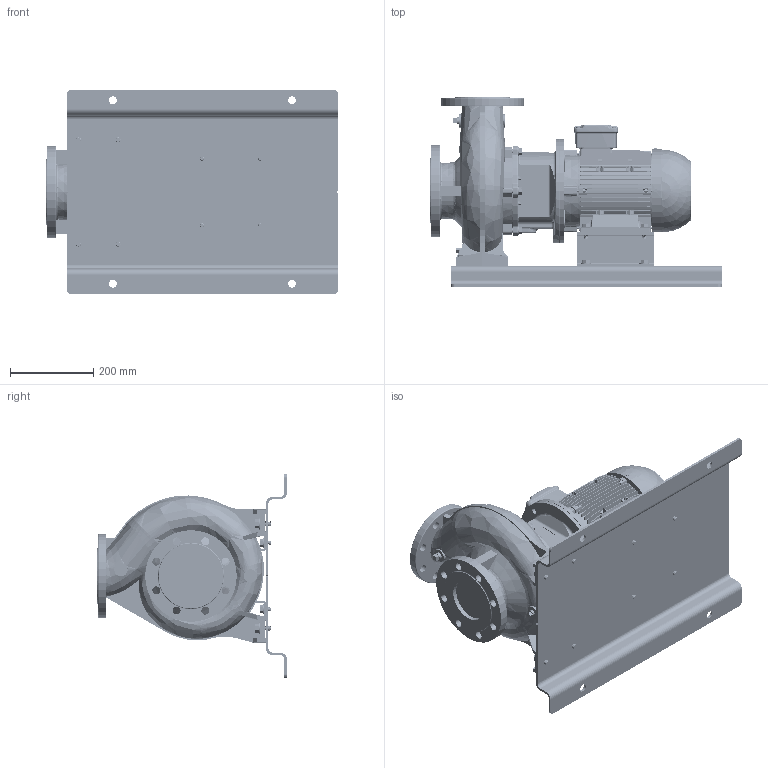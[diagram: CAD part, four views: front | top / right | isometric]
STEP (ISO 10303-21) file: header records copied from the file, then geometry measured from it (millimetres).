
FILE_DESCRIPTION (( 'STEP AP214' ), '1' );
FILE_NAME ('GSD4 80-160_2.2 & 3.0_(100L)_W21_BP.STEP', '2026-05-08T06:53:24', ( '' ), ( '' ), 'SwSTEP 2.0', 'SolidWorks 2024', '' );
FILE_SCHEMA (( 'AUTOMOTIVE_DESIGN' ));
Length unit declared in the file: inch
Products named in the file (11): Parametric bolt_SFT-A249B.STEP; 80-160-100L_______.STEP; GSD4 80-160_2.2 & 3.0_(100L)_W21_BP; Parametric bolt_SFT-A253B.STEP; GSD4 80-160_2.2 & 3.0_(100L)_W21_BP.STEP; 100L ALIE3_W21T_B35.STEP; Parametric Flat Washer_M12.STEP; N5S5 GSDA-552 F1-1832915-00.STEP; Parametric Flat Washer_M10.STEP; Parametric bolt_SFT-A299B.STEP; 140 x 80 - 271472220.STEP
Assembly tree (30 placements, depth 3):
  GSD4 80-160_2.2 & 3.0_(100L)_W21_BP
    GSD4 80-160_2.2 & 3.0_(100L)_W21_BP.STEP
      80-160-100L_______.STEP
      100L ALIE3_W21T_B35.STEP
      N5S5 GSDA-552 F1-1832915-00.STEP
      140 x 80 - 271472220.STEP  x2
      Parametric bolt_SFT-A299B.STEP  x4
      Parametric bolt_SFT-A253B.STEP  x4
      Parametric bolt_SFT-A249B.STEP  x4
      Parametric Flat Washer_M12.STEP  x4
      Parametric Flat Washer_M10.STEP  x8
Bounding box: 700 x 455 x 490 mm (x, y, z)
Volume: 23547686.1 mm3; surface area: 2306750.6 mm2
Topology: 32 solids, 32 shells, 4251 faces, 11104 edges, 7139 vertices
Faces by surface type: plane 2336, cylinder 1145, torus 317, bspline 250, cone 185, sphere 18
Entity records: 185264 total; most frequent: CARTESIAN_POINT 95060, ORIENTED_EDGE 19510, DIRECTION 17446, EDGE_CURVE 9755, VERTEX_POINT 6281, VECTOR 6124, LINE 6124, AXIS2_PLACEMENT_3D 5661
